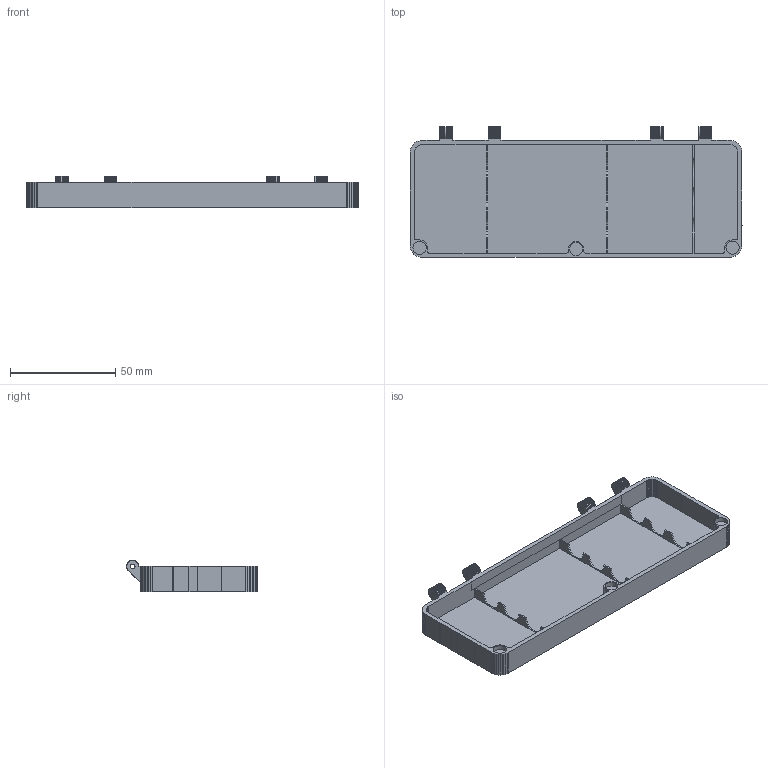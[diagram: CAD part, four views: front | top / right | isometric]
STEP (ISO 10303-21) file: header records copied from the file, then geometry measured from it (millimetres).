
FILE_DESCRIPTION(/* description */ (''),/* implementation_level */ '2;1');
FILE_NAME(/* name */ 'Unterteil.step',/* time_stamp */ '2025-11-07T12:55:16+01:00',/* author */ (''),/* organization */ (''),/* preprocessor_version */ 'ST-DEVELOPER v20.1',/* originating_system */ 'Autodesk Translation Framework v14.21.0.0',/* authorisation */ '');
FILE_SCHEMA (('AUTOMOTIVE_DESIGN { 1 0 10303 214 3 1 1 }'));
Length unit declared in the file: millimetre
Products named in the file (1): 2025-11-07-12-55-15-858
Bounding box: 157.52 x 62.04 x 14.9 mm (x, y, z)
Volume: 27619.8 mm3; surface area: 28263.1 mm2
Topology: 1 solids, 1 shells, 930 faces, 2717 edges, 1793 vertices
Faces by surface type: plane 909, cylinder 21
Full cylindrical faces by diameter (mm): 6.1 x1, 6.3 x2
Entity records: 30170 total; most frequent: CARTESIAN_POINT 5441, ORIENTED_EDGE 5434, DIRECTION 4639, EDGE_CURVE 2717, LINE 2657, VECTOR 2657, VERTEX_POINT 1793, AXIS2_PLACEMENT_3D 991
